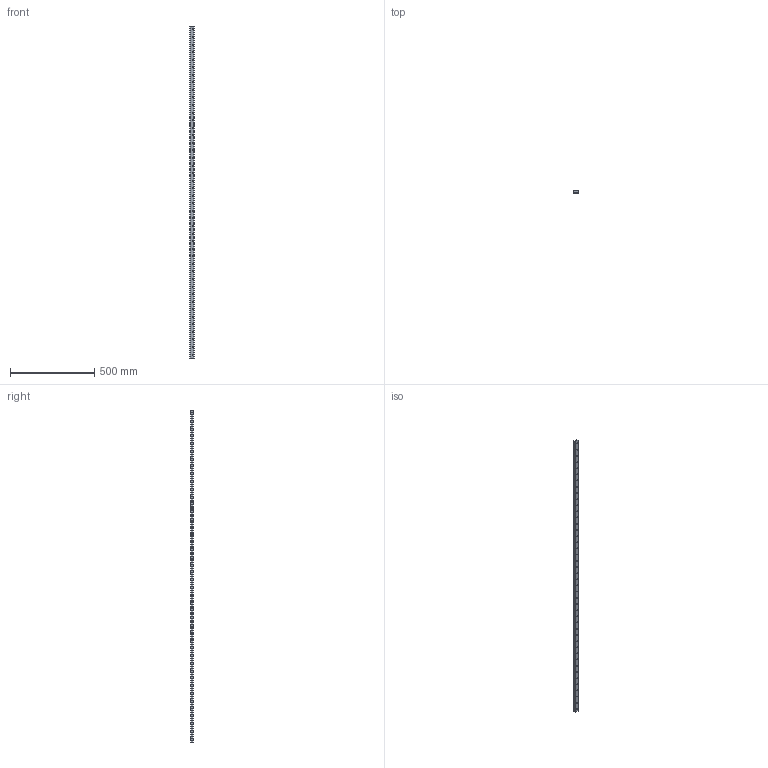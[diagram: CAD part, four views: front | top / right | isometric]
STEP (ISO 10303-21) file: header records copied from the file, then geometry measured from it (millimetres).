
FILE_DESCRIPTION(('STEP AP203'),'1');
FILE_NAME('track_ft2412l1976p1.stp','2022-07-04T01:30:30',('TraceParts'),('TraceParts S.A.'),'Spatial InterOp 3D',' ',' ');
FILE_SCHEMA(('CONFIG_CONTROL_DESIGN'));
Length unit declared in the file: millimetre
Products named in the file (1): 1
Bounding box: 24 x 12 x 1976 mm (x, y, z)
Volume: 542468.4 mm3; surface area: 151224.4 mm2
Topology: 1 solids, 1 shells, 230 faces, 552 edges, 368 vertices
Faces by surface type: cylinder 176, plane 54
Entity records: 7108 total; most frequent: DIRECTION 1366, CARTESIAN_POINT 1151, ORIENTED_EDGE 1104, AXIS2_PLACEMENT_3D 583, EDGE_CURVE 552, VERTEX_POINT 368, EDGE_LOOP 362, CIRCLE 352
